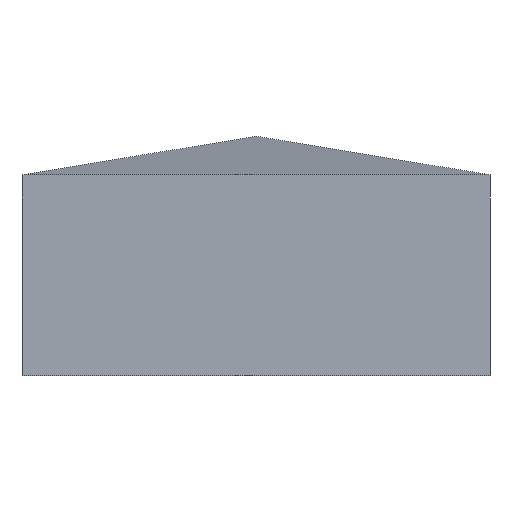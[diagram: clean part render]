
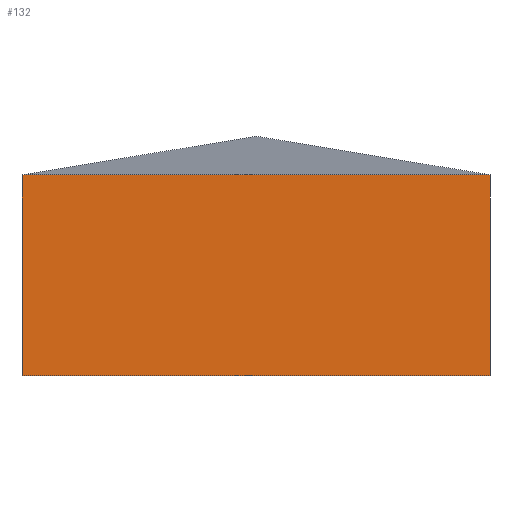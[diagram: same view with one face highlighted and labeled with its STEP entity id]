
A CAD part, front view. The second image highlights one B-rep face of the part: STEP entity #132.
In plain terms, the highlighted planar face has unit normal (0, -1, 0).
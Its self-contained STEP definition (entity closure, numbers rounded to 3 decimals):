
#16=FACE_OUTER_BOUND('',#25,.T.);
#25=EDGE_LOOP('',(#94,#95,#96,#97));
#34=LINE('',#199,#50);
#37=LINE('',#205,#53);
#38=LINE('',#207,#54);
#39=LINE('',#208,#55);
#50=VECTOR('',#162,10.);
#53=VECTOR('',#167,10.);
#54=VECTOR('',#168,10.);
#55=VECTOR('',#169,10.);
#66=VERTEX_POINT('',#196);
#67=VERTEX_POINT('',#198);
#69=VERTEX_POINT('',#204);
#70=VERTEX_POINT('',#206);
#75=EDGE_CURVE('',#67,#66,#34,.T.);
#78=EDGE_CURVE('',#66,#69,#37,.T.);
#79=EDGE_CURVE('',#70,#69,#38,.T.);
#80=EDGE_CURVE('',#67,#70,#39,.T.);
#94=ORIENTED_EDGE('',*,*,#78,.T.);
#95=ORIENTED_EDGE('',*,*,#79,.F.);
#96=ORIENTED_EDGE('',*,*,#80,.F.);
#97=ORIENTED_EDGE('',*,*,#75,.T.);
#123=PLANE('',#149);
#132=ADVANCED_FACE('',(#16),#123,.T.);
#149=AXIS2_PLACEMENT_3D('',#203,#165,#166);
#162=DIRECTION('',(0.,0.,1.));
#165=DIRECTION('center_axis',(0.,-1.,0.));
#166=DIRECTION('ref_axis',(1.,0.,0.));
#167=DIRECTION('',(-1.,0.,0.));
#168=DIRECTION('',(0.,0.,1.));
#169=DIRECTION('',(-1.,0.,0.));
#196=CARTESIAN_POINT('',(303.,-303.,0.));
#198=CARTESIAN_POINT('',(303.,-303.,-260.));
#199=CARTESIAN_POINT('',(303.,-303.,-260.));
#203=CARTESIAN_POINT('Origin',(-303.,-303.,-260.));
#204=CARTESIAN_POINT('',(-303.,-303.,0.));
#205=CARTESIAN_POINT('',(303.,-303.,0.));
#206=CARTESIAN_POINT('',(-303.,-303.,-260.));
#207=CARTESIAN_POINT('',(-303.,-303.,-260.));
#208=CARTESIAN_POINT('',(303.,-303.,-260.));
